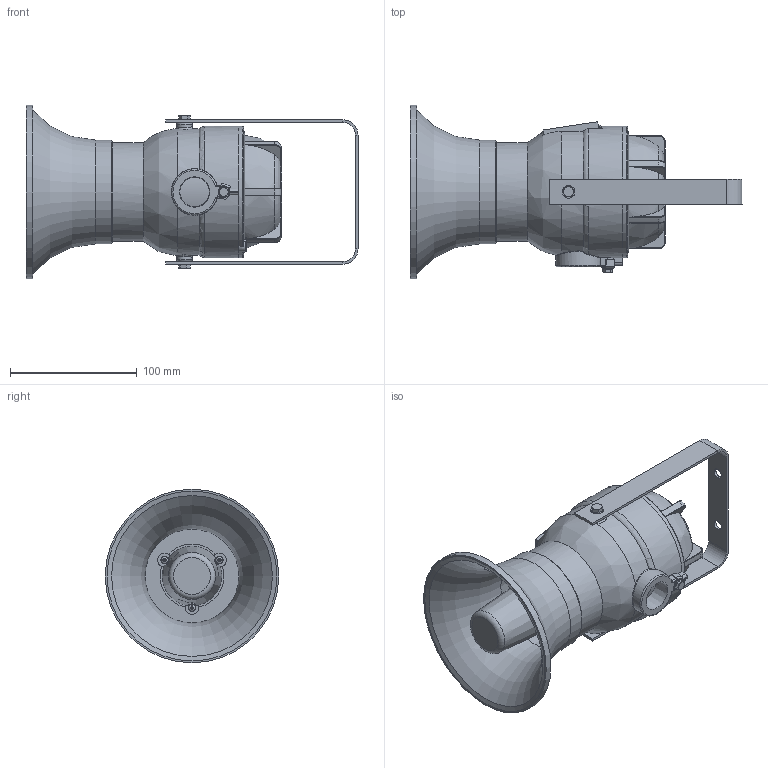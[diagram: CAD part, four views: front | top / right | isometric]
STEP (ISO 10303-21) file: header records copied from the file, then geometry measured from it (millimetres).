
FILE_DESCRIPTION((''),'2;1');
FILE_NAME('\\192.168.5.25\cortem_klient\INVENTOR БАЗА МОДЕЛЕЙ\Актуальная база моделей для отдела продаж\ПГЗ-РЕВУН\ПГЗ-РЕВУН4_СКОБА_тв.тело.stp','2023-11-07T13:24:48',('K.S.Bezzubikov'),(''),'Autodesk Inventor 2012','Autodesk Inventor 2012','');
FILE_SCHEMA(('AUTOMOTIVE_DESIGN { 1 0 10303 214 1 1 1 1 }'));
Length unit declared in the file: millimetre
Products named in the file (1): ПГЗ-РЕВУН4_32_Внешний контур_1_тт
Bounding box: 262.21 x 137 x 137 mm (x, y, z)
Volume: 943872.5 mm3; surface area: 150384.2 mm2
Topology: 1 solids, 11 shells, 443 faces, 1073 edges, 669 vertices
Faces by surface type: plane 191, cylinder 112, cone 74, bspline 32, torus 31, sphere 3
Full cylindrical faces by diameter (mm): 2.75 x3, 3 x3, 3.242 x1, 3.5 x3, 3.621 x1, 4.134 x2, 4.15 x1, 4.3 x1, 4.567 x2, 5 x2, 5.9 x1, 6.7 x2, 8 x2, 9 x2, 11 x3, 12.2 x2, 32.5 x1, 40 x1, 74 x1, 78 x1, 80 x1, 82 x1, 92 x1, 137 x1
Entity records: 14453 total; most frequent: CARTESIAN_POINT 4496, DIRECTION 1965, ORIENTED_EDGE 1938, EDGE_CURVE 969, AXIS2_PLACEMENT_3D 815, VERTEX_POINT 637, EDGE_LOOP 556, FACE_OUTER_BOUND 443
